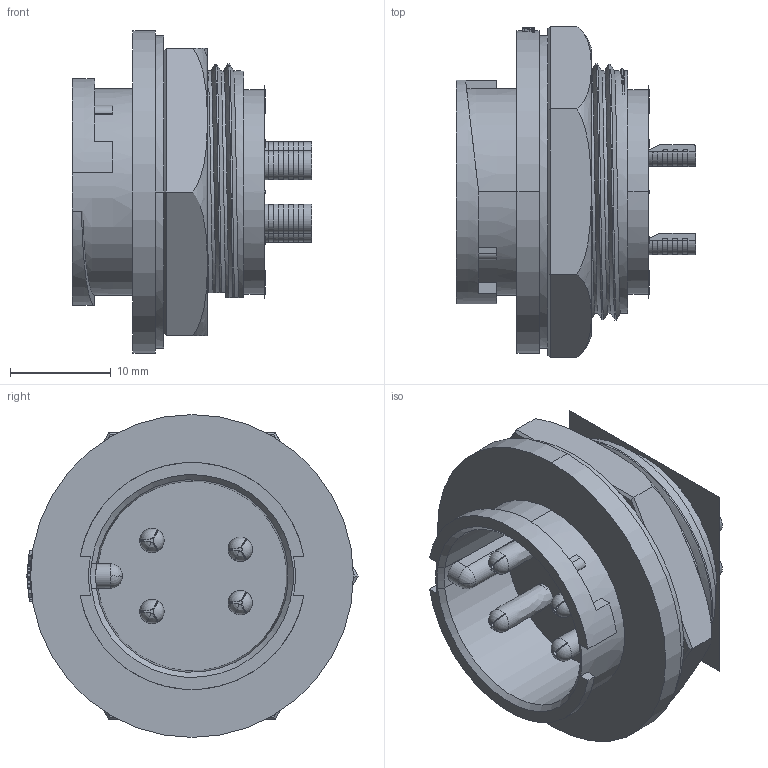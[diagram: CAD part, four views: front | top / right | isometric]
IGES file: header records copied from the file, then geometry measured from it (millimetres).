
Start section:  PTC IGES file: ADC-04RMMS-LC7001.igs
Global section: file name: ADC-04RMMS-LC7001.igs; native system: Creo Parametric by Parametric Technology Corporation; preprocessor: 2013050; author: KS7307; organization: Unknown; date: 20160625.104516; units: millimetre
Bounding box: 23.7 x 32.91 x 32 mm (x, y, z)
Volume: 7240.2 mm3; surface area: 7330.7 mm2
Topology: 1 solids, 3 shells, 922 faces, 3029 edges, 2270 vertices
Faces by surface type: bspline 516, revolution 350, extrusion 56
